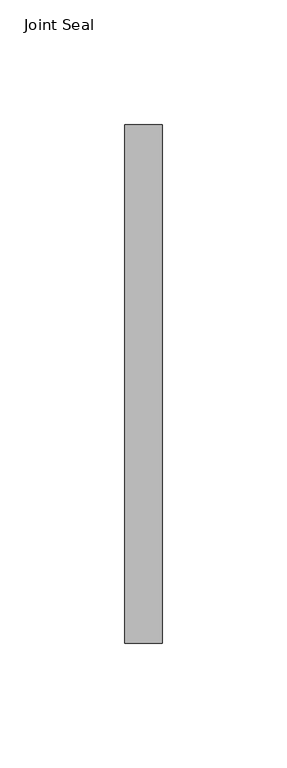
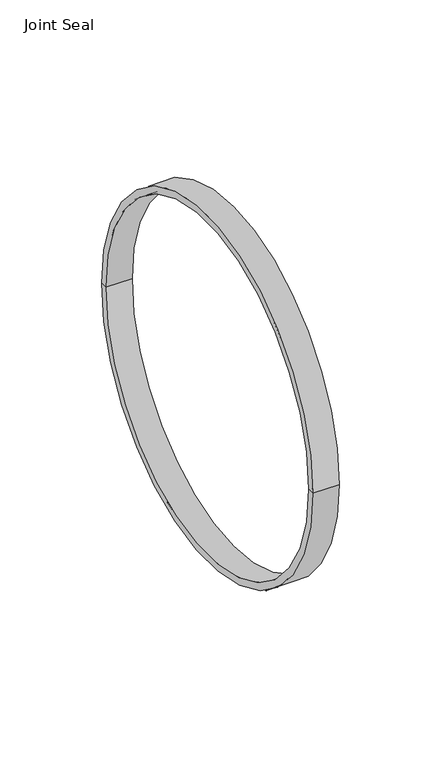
"""IFC4 building model written with IfcOpenShell, lengths in millimetres: valve geometry, CADS_Jeremias_JointSeal : Joint Seal."""

from ifc_helpers import new_model, si_unit, frame, origin, place, context, project, spatial, polyline, circle_curve, source, transform, mapped, element, save
from ifc_brep_helpers import plane_surface, cylinder_surface, revolved_surface, advanced_brep


def joint_seal_ffcbe19e(model_context):
    return source(origin(), model_context, "Body", "AdvancedBrep", [
        advanced_brep(
        [(27.5, -100.0, 0.0), (27.5, 100.0, 0.0), (27.5, 104.0, 0.0), (27.5, -104.0, 0.0), (42.5, -100.0, 0.0), (42.5, 100.0, 0.0), (42.5, -104.0, 0.0), (42.5, 104.0, 0.0)],
        [
            (0, 1, circle_curve(frame((27.5, 0.0, 0.0), z_axis=(1.0, 0.0, 0.0), x_axis=(0.0, 1.0, 0.0)), 100.0)),
            (1, 2),
            (2, 3, circle_curve(frame((27.5, 0.0, 0.0), z_axis=(-1.0, 0.0, 0.0), x_axis=(0.0, 1.0, 0.0)), 104.0)),
            (3, 0),
            (1, 0, circle_curve(frame((27.5, 0.0, 0.0), z_axis=(1.0, 0.0, 0.0), x_axis=(0.0, 1.0, 0.0)), 100.0)),
            (3, 2, circle_curve(frame((27.5, 0.0, 0.0), z_axis=(-1.0, 0.0, 0.0), x_axis=(0.0, 1.0, 0.0)), 104.0)),
            (4, 5, circle_curve(frame((42.5, 0.0, 0.0), z_axis=(1.0, 0.0, 0.0), x_axis=(0.0, 1.0, 0.0)), 100.0)),
            (5, 1),
            (0, 4),
            (5, 4, circle_curve(frame((42.5, 0.0, 0.0), z_axis=(1.0, 0.0, 0.0), x_axis=(0.0, 1.0, 0.0)), 100.0)),
            (6, 7, circle_curve(frame((42.5, 0.0, 0.0), z_axis=(1.0, 0.0, 0.0), x_axis=(0.0, 1.0, 0.0)), 104.0)),
            (7, 5),
            (4, 6),
            (7, 6, circle_curve(frame((42.5, 0.0, 0.0), z_axis=(1.0, 0.0, 0.0), x_axis=(0.0, 1.0, 0.0)), 104.0)),
            (2, 7),
            (6, 3),
        ],
        [
            plane_surface(frame((27.5, 0.0, 0.0), z_axis=(-1.0, 0.0, 0.0), x_axis=(0.0, 1.0, 0.0))),
            revolved_surface(polyline([(27.5, 100.0, 0.0), (42.5, 100.0, 0.0)]), (1975.0, 0.0, 0.0), (-1.0, 0.0, 0.0)),
            plane_surface(frame((42.5, 0.0, 0.0), z_axis=(1.0, 0.0, 0.0), x_axis=(0.0, 1.0, 0.0))),
            cylinder_surface(frame((1975.0, 0.0, 0.0), z_axis=(-1.0, 0.0, 0.0), x_axis=(0.0, 1.0, 0.0)), 104.0),
        ],
        [
            (0, [[1, 2, 3, 4]]),
            (0, [[5, -4, 6, -2]]),
            (1, [[7, 8, -1, 9]]),
            (1, [[10, -9, -5, -8]]),
            (2, [[11, 12, -7, 13]]),
            (2, [[14, -13, -10, -12]]),
            (3, [[-3, 15, -11, 16]]),
            (3, [[-6, -16, -14, -15]]),
        ],
    ),
    ])


if __name__ == "__main__":
    model = new_model("IFC4")
    model_context = context("Model", 3, world=origin())
    ifc_project = project(units=[si_unit("LENGTHUNIT", "METRE", prefix="MILLI")], contexts=[model_context])
    site = spatial("IfcSite", under=ifc_project)
    building = spatial("IfcBuilding", under=site)
    placement = place(None, origin())
    joint_seal_shape = joint_seal_ffcbe19e(model_context)
    element("IfcValve", 1, ObjectType="CADS_Jeremias_JointSeal : Joint Seal", at=placement, inside=building, context=model_context, shape_type="MappedRepresentation", body=[
        mapped(joint_seal_shape, transform((0.0, 0.0, 0.0), x_axis=(1.0, 0.0, 0.0), y_axis=(0.0, 1.0, 0.0), z_axis=(0.0, 0.0, 1.0))),
    ])
    save(model, "model.ifc")
